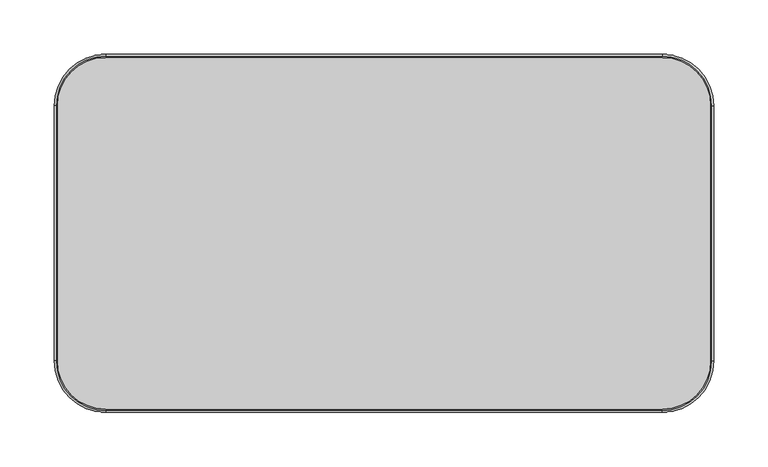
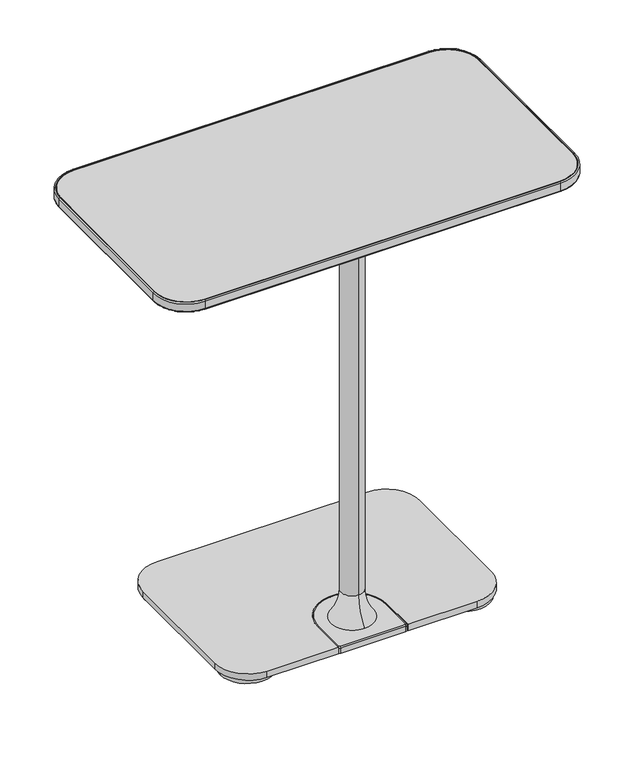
"""IFC4 building model written with IfcOpenShell, lengths in millimetres: furniture geometry, Steelcase Coalesse - Lagunitas - Table - Personal (3) : 13D x 24W."""

from ifc_helpers import new_model, si_unit, point, frame, frame_2d, origin, origin_with_axes, place, context, project, spatial, polyline, circle_curve, ellipse_curve, trimmed, segment, composite_curve, outline, extrude, source, transform, mapped, element, save
from ifc_brep_helpers import plane_surface, cylinder_surface, revolved_surface, advanced_brep


def furniture_b89f0dee(model_context):
    return source(origin(), model_context, "Body", "SolidModel", [
        advanced_brep(
        [(-48.435586, -86.197599, 15.3754683), (-46.9187865, -86.197599, 16.8922679), (50.1397432, -86.197599, 16.8922679), (51.6565428, -86.197599, 15.3754683), (51.6565428, -86.197599, 7.5129953), (-48.435586, -86.197599, 7.5129953), (-48.435586, -135.1065525, 15.3754683), (-46.9187865, -135.1065525, 16.8922679), (-48.435586, -135.1065525, 7.5129953), (-44.9985216, -138.543617, 15.3754683), (48.2194784, -138.543617, 15.3754683), (48.2194784, -137.0268174, 16.8922679), (-44.9985216, -137.0268174, 16.8922679), (-44.9985216, -138.543617, 7.5129953), (48.2194784, -138.543617, 7.5129953), (50.1397432, -135.1065525, 16.8922679), (51.6565428, -135.1065525, 15.3754683), (51.6565428, -135.1065525, 7.5129953)],
        [
            (0, 1, circle_curve(frame((-46.9187865, -86.197599, 15.3754683), z_axis=(0.0, 1.0, 0.0), x_axis=(-1.0, 0.0, 0.0)), 1.5167996)),
            (1, 2, circle_curve(frame((1.6104784, -86.197599, 16.8922679), z_axis=(0.0, 0.0, -1.0), x_axis=(1.0, 0.0, 0.0)), 48.5292649)),
            (2, 3, circle_curve(frame((50.1397432, -86.197599, 15.3754683), z_axis=(0.0, 1.0, 0.0), x_axis=(1.0, 0.0, 0.0)), 1.5167996)),
            (3, 0, circle_curve(frame((1.6104784, -86.197599, 15.3754683), z_axis=(0.0, 0.0, 1.0), x_axis=(1.0, 0.0, 0.0)), 50.0460644)),
            (3, 4),
            (4, 5, circle_curve(frame((1.6104784, -86.197599, 7.5129953), z_axis=(0.0, 0.0, 1.0), x_axis=(1.0, 0.0, 0.0)), 50.0460644)),
            (5, 0),
            (0, 6),
            (6, 7, circle_curve(frame((-46.9187865, -135.1065525, 15.3754683), z_axis=(0.0, 1.0, 0.0), x_axis=(-1.0, 0.0, 0.0)), 1.5167996)),
            (7, 1),
            (5, 8),
            (8, 6),
            (9, 10),
            (10, 11, circle_curve(frame((48.2194784, -137.0268174, 15.3754683), z_axis=(-1.0, 0.0, 0.0), x_axis=(0.0, -1.0, 0.0)), 1.5167996)),
            (11, 12),
            (12, 9, circle_curve(frame((-44.9985216, -137.0268174, 15.3754683), z_axis=(1.0, 0.0, 0.0), x_axis=(0.0, -1.0, 0.0)), 1.5167996)),
            (9, 13),
            (13, 14),
            (14, 10),
            (2, 15),
            (15, 16, circle_curve(frame((50.1397432, -135.1065525, 15.3754683), z_axis=(0.0, 1.0, 0.0), x_axis=(1.0, 0.0, 0.0)), 1.5167996)),
            (16, 3),
            (16, 17),
            (17, 4),
            (6, 9, circle_curve(frame((-44.9985216, -135.1065525, 15.3754683), z_axis=(0.0, 0.0, 1.0), x_axis=(-1.0, 0.0, 0.0)), 3.4370644)),
            (12, 7, circle_curve(frame((-44.9985216, -135.1065525, 16.8922679), z_axis=(0.0, 0.0, -1.0), x_axis=(-1.0, 0.0, 0.0)), 1.9202649)),
            (8, 13, circle_curve(frame((-44.9985216, -135.1065525, 7.5129953), z_axis=(0.0, 0.0, 1.0), x_axis=(-1.0, 0.0, 0.0)), 3.4370644)),
            (11, 15, circle_curve(frame((48.2194784, -135.1065525, 16.8922679), z_axis=(0.0, 0.0, 1.0), x_axis=(0.0, -1.0, 0.0)), 1.9202649)),
            (10, 16, circle_curve(frame((48.2194784, -135.1065525, 15.3754683), z_axis=(0.0, 0.0, 1.0), x_axis=(0.0, -1.0, 0.0)), 3.4370644)),
            (14, 17, circle_curve(frame((48.2194784, -135.1065525, 7.5129953), z_axis=(0.0, 0.0, 1.0), x_axis=(0.0, -1.0, 0.0)), 3.4370644)),
        ],
        [
            revolved_surface(trimmed(ellipse_curve(frame((50.1397432, -86.197599, 15.3754683), z_axis=(0.0, 1.0, 0.0), x_axis=(1.0, 0.0, 0.0)), 1.5167996, 1.5167996), [point((50.1397432, -86.197599, 16.8922679))], [point((51.6565428, -86.197599, 15.3754683))], True, "CARTESIAN"), (1.6104784, -86.197599, 16.8922679), (0.0, 0.0, -1.0)),
            cylinder_surface(frame((1.6104784, -86.197599, 16.8922679), z_axis=(0.0, 0.0, -1.0), x_axis=(1.0, 0.0, 0.0)), 50.0460644),
            cylinder_surface(frame((-46.9187865, -86.197599, 15.3754683), z_axis=(0.0, 1.0, 0.0), x_axis=(-1.0, 0.0, 0.0)), 1.5167996),
            plane_surface(frame((-48.435586, -86.197599, 15.3754683), z_axis=(-1.0, 0.0, 0.0), x_axis=(0.0, -1.0, 0.0))),
            cylinder_surface(frame((-44.9985216, -137.0268174, 15.3754683), z_axis=(-1.0, 0.0, 0.0), x_axis=(0.0, -1.0, 0.0)), 1.5167996),
            plane_surface(frame((-44.9985216, -138.543617, 15.3754683), z_axis=(0.0, -1.0, 0.0), x_axis=(1.0, 0.0, 0.0))),
            cylinder_surface(frame((50.1397432, -135.1065525, 15.3754683), z_axis=(0.0, -1.0, 0.0), x_axis=(1.0, 0.0, 0.0)), 1.5167996),
            plane_surface(frame((51.6565428, -135.1065525, 15.3754683), z_axis=(1.0, 0.0, 0.0), x_axis=(0.0, 1.0, 0.0))),
            revolved_surface(trimmed(ellipse_curve(frame((-46.9187865, -135.1065525, 15.3754683), z_axis=(0.0, -1.0, 0.0), x_axis=(-1.0, 0.0, 0.0)), 1.5167996, 1.5167996), [point((-46.9187865, -135.1065525, 16.8922679))], [point((-48.435586, -135.1065525, 15.3754683))], True, "CARTESIAN"), (-44.9985216, -135.1065525, 16.8922679), (0.0, 0.0, -1.0)),
            cylinder_surface(frame((-44.9985216, -135.1065525, 16.8922679), z_axis=(0.0, 0.0, -1.0), x_axis=(-1.0, 0.0, 0.0)), 3.4370644),
            plane_surface(frame((48.2194784, -135.1065525, 16.8922679), z_axis=(0.0, 0.0, 1.0), x_axis=(0.0, -1.0, 0.0))),
            revolved_surface(trimmed(ellipse_curve(frame((48.2194784, -137.0268174, 15.3754683), z_axis=(1.0, 0.0, 0.0), x_axis=(0.0, -1.0, 0.0)), 1.5167996, 1.5167996), [point((48.2194784, -137.0268174, 16.8922679))], [point((48.2194784, -138.543617, 15.3754683))], True, "CARTESIAN"), (48.2194784, -135.1065525, 16.8922679), (0.0, 0.0, -1.0)),
            cylinder_surface(frame((48.2194784, -135.1065525, 16.8922679), z_axis=(0.0, 0.0, -1.0), x_axis=(0.0, -1.0, 0.0)), 3.4370644),
            plane_surface(frame((48.2194784, -135.1065525, 7.5129953), z_axis=(0.0, 0.0, -1.0), x_axis=(0.0, -1.0, 0.0))),
        ],
        [
            (0, [[1, 2, 3, 4]]),
            (1, [[5, 6, 7, -4]]),
            (2, [[8, 9, 10, -1]]),
            (3, [[11, 12, -8, -7]]),
            (4, [[13, 14, 15, 16]]),
            (5, [[17, 18, 19, -13]]),
            (6, [[20, 21, 22, -3]]),
            (7, [[-22, 23, 24, -5]]),
            (8, [[25, -16, 26, -9]]),
            (9, [[27, -17, -25, -12]]),
            (10, [[-10, -26, -15, 28, -20, -2]]),
            (11, [[29, -21, -28, -14]]),
            (12, [[30, -23, -29, -19]]),
            (13, [[-24, -30, -18, -27, -11, -6]]),
        ],
    ),
        advanced_brep(
        [(0.3050059, -104.0506461, 613.6754053), (0.3050059, -72.1983752, 613.6754053), (0.3050059, -72.1983752, 59.1225811), (0.3050059, -104.0506461, 59.1225811), (0.3050059, -57.1200218, 16.8922679), (0.3050059, -88.1245106, 16.8922679), (0.3050059, -119.1289995, 16.8922679), (130.6684254, -113.5493395, 620.8077946), (140.8284254, -103.3893395, 620.8077946), (140.8284254, 28.6906605, 620.8077946), (130.6684254, 38.8506605, 620.8077946), (-128.4115261, 38.8506605, 620.8077946), (-138.5715261, 28.6906605, 620.8077946), (-138.5715261, -103.3893395, 620.8077946), (-128.4115261, -113.5493395, 620.8077946), (130.6684254, -113.5493395, 613.6754053), (-128.4115261, -113.5493395, 613.6754053), (-138.5715261, -103.3893395, 613.6754053), (-138.5715261, 28.6906605, 613.6754053), (-128.4115261, 38.8506605, 613.6754053), (130.6684254, 38.8506605, 613.6754053), (140.8284254, 28.6906605, 613.6754053), (140.8284254, -103.3893395, 613.6754053)],
        [
            (0, 1, circle_curve(frame((0.3050059, -88.1245106, 613.6754053), z_axis=(0.0, 0.0, -1.0), x_axis=(0.0, -1.0, 0.0)), 15.9261354)),
            (1, 2),
            (2, 3, circle_curve(frame((0.3050059, -88.1245106, 59.1225811), z_axis=(0.0, 0.0, 1.0), x_axis=(0.0, -1.0, 0.0)), 15.9261354)),
            (3, 0),
            (3, 2, circle_curve(frame((0.3050059, -88.1245106, 59.1225811), z_axis=(0.0, 0.0, 1.0), x_axis=(0.0, -1.0, 0.0)), 15.9261354)),
            (1, 0, circle_curve(frame((0.3050059, -88.1245106, 613.6754053), z_axis=(0.0, 0.0, -1.0), x_axis=(0.0, -1.0, 0.0)), 15.9261354)),
            (4, 5),
            (5, 6),
            (6, 4, circle_curve(frame((0.3050059, -88.1245106, 16.8922679), z_axis=(0.0, 0.0, -1.0), x_axis=(0.0, -1.0, 0.0)), 31.0044888)),
            (4, 6, circle_curve(frame((0.3050059, -88.1245106, 16.8922679), z_axis=(0.0, 0.0, -1.0), x_axis=(0.0, -1.0, 0.0)), 31.0044888)),
            (2, 4, circle_curve(frame((0.3050059, -5.5214628, 59.1225811), z_axis=(1.0, 0.0, 0.0), x_axis=(0.0, 1.0, 0.0)), 66.6769124)),
            (6, 3, circle_curve(frame((0.3050059, -170.7275585, 59.1225811), z_axis=(1.0, 0.0, 0.0), x_axis=(0.0, -1.0, 0.0)), 66.6769124)),
            (7, 8, circle_curve(frame((130.6684254, -103.3893395, 620.8077946), z_axis=(0.0, 0.0, 1.0), x_axis=(1.0, 0.0, 0.0)), 10.16)),
            (8, 9),
            (9, 10, circle_curve(frame((130.6684254, 28.6906605, 620.8077946), z_axis=(0.0, 0.0, 1.0), x_axis=(1.0, 0.0, 0.0)), 10.16)),
            (10, 11),
            (11, 12, circle_curve(frame((-128.4115261, 28.6906605, 620.8077946), z_axis=(0.0, 0.0, 1.0), x_axis=(1.0, 0.0, 0.0)), 10.16)),
            (12, 13),
            (13, 14, circle_curve(frame((-128.4115261, -103.3893395, 620.8077946), z_axis=(0.0, 0.0, 1.0), x_axis=(1.0, 0.0, 0.0)), 10.16)),
            (14, 7),
            (15, 16),
            (16, 17, circle_curve(frame((-128.4115261, -103.3893395, 613.6754053), z_axis=(0.0, 0.0, -1.0), x_axis=(1.0, 0.0, 0.0)), 10.16)),
            (17, 18),
            (18, 19, circle_curve(frame((-128.4115261, 28.6906605, 613.6754053), z_axis=(0.0, 0.0, -1.0), x_axis=(1.0, 0.0, 0.0)), 10.16)),
            (19, 20),
            (20, 21, circle_curve(frame((130.6684254, 28.6906605, 613.6754053), z_axis=(0.0, 0.0, -1.0), x_axis=(1.0, 0.0, 0.0)), 10.16)),
            (21, 22),
            (22, 15, circle_curve(frame((130.6684254, -103.3893395, 613.6754053), z_axis=(0.0, 0.0, -1.0), x_axis=(1.0, 0.0, 0.0)), 10.16)),
            (14, 16),
            (15, 7),
            (13, 17),
            (12, 18),
            (11, 19),
            (10, 20),
            (9, 21),
            (8, 22),
        ],
        [
            cylinder_surface(frame((0.3050059, -88.1245106, 738.9341599), z_axis=(0.0, 0.0, 1.0), x_axis=(0.0, -1.0, 0.0)), 15.9261354),
            plane_surface(frame((0.3050059, -88.1245106, 16.8922679), z_axis=(0.0, 0.0, -1.0), x_axis=(0.0, -1.0, 0.0))),
            revolved_surface(trimmed(ellipse_curve(frame((0.3050059, -170.7275585, 59.1225811), z_axis=(1.0, 0.0, 0.0), x_axis=(0.0, -1.0, 0.0)), 66.6769124, 66.6769124), [point((0.3050059, -119.1289995, 16.8922679))], [point((0.3050059, -104.0506461, 59.1225811))], True, "CARTESIAN"), (0.3050059, -88.1245106, 738.9341599), (0.0, 0.0, 1.0)),
            plane_surface(frame((-138.5715261, -113.5493395, 620.8077946), z_axis=(0.0, 0.0, 1.0), x_axis=(-1.0, 0.0, 0.0))),
            plane_surface(frame((-138.5715261, -113.5493395, 613.6754053), z_axis=(0.0, 0.0, -1.0), x_axis=(1.0, 0.0, 0.0))),
            plane_surface(frame((130.6684254, -113.5493395, 620.8077946), z_axis=(0.0, -1.0, 0.0), x_axis=(0.0, 0.0, -1.0))),
            cylinder_surface(frame((-128.4115261, -103.3893395, 613.6754053), z_axis=(0.0, 0.0, 1.0), x_axis=(1.0, 0.0, 0.0)), 10.16),
            plane_surface(frame((-138.5715261, -103.3893395, 620.8077946), z_axis=(-1.0, 0.0, 0.0), x_axis=(0.0, 0.0, -1.0))),
            cylinder_surface(frame((-128.4115261, 28.6906605, 613.6754053), z_axis=(0.0, 0.0, 1.0), x_axis=(1.0, 0.0, 0.0)), 10.16),
            plane_surface(frame((-128.4115261, 38.8506605, 620.8077946), z_axis=(0.0, 1.0, 0.0), x_axis=(0.0, 0.0, -1.0))),
            cylinder_surface(frame((130.6684254, 28.6906605, 613.6754053), z_axis=(0.0, 0.0, 1.0), x_axis=(1.0, 0.0, 0.0)), 10.16),
            plane_surface(frame((140.8284254, 28.6906605, 620.8077946), z_axis=(1.0, 0.0, 0.0), x_axis=(0.0, 0.0, -1.0))),
            cylinder_surface(frame((130.6684254, -103.3893395, 613.6754053), z_axis=(0.0, 0.0, 1.0), x_axis=(1.0, 0.0, 0.0)), 10.16),
        ],
        [
            (0, [[1, 2, 3, 4]]),
            (0, [[5, -2, 6, -4]]),
            (1, [[7, 8, 9]]),
            (1, [[-7, 10, -8]]),
            (2, [[11, -9, 12, -3]]),
            (2, [[-12, -10, -11, -5]]),
            (3, [[13, 14, 15, 16, 17, 18, 19, 20]]),
            (4, [[21, 22, 23, 24, 25, 26, 27, 28], [-6, -1]]),
            (5, [[29, -21, 30, -20]]),
            (6, [[31, -22, -29, -19]]),
            (7, [[32, -23, -31, -18]]),
            (8, [[33, -24, -32, -17]]),
            (9, [[34, -25, -33, -16]]),
            (10, [[35, -26, -34, -15]]),
            (11, [[36, -27, -35, -14]]),
            (12, [[-30, -28, -36, -13]]),
        ],
    ),
        advanced_brep(
        [(-48.435586, -138.1507449, 16.8922679), (-48.435586, -86.197599, 16.8922679), (51.6565428, -86.197599, 16.8922679), (51.6565428, -138.1507449, 16.8922679), (151.8367247, -138.1507449, 16.8922679), (199.4617247, -90.5257449, 16.8922679), (199.4617247, 89.2299982, 16.8922679), (151.8367247, 136.8549982, 16.8922679), (-151.226713, 136.8549982, 16.8922679), (-198.851713, 89.2299982, 16.8922679), (-198.851713, -90.5257449, 16.8922679), (-151.226713, -138.1507449, 16.8922679), (-48.435586, -138.1507449, 7.5129953), (-151.226713, -138.1507449, 7.5129953), (-198.851713, -90.5257449, 7.5129953), (-198.851713, 89.2299982, 7.5129953), (-151.226713, 136.8549982, 7.5129953), (151.8367247, 136.8549982, 7.5129953), (199.4617247, 89.2299982, 7.5129953), (199.4617247, -90.5257449, 7.5129953), (151.8367247, -138.1507449, 7.5129953), (51.6565428, -138.1507449, 7.5129953), (51.6565428, -86.197599, 7.5129953), (-48.435586, -86.197599, 7.5129953)],
        [
            (0, 1),
            (1, 2, circle_curve(frame((1.6104784, -86.197599, 16.8922679), z_axis=(0.0, 0.0, -1.0), x_axis=(1.0, 0.0, 0.0)), 50.0460644)),
            (2, 3),
            (3, 4),
            (4, 5, circle_curve(frame((151.8367247, -90.5257449, 16.8922679), z_axis=(0.0, 0.0, 1.0), x_axis=(1.0, 0.0, 0.0)), 47.625)),
            (5, 6),
            (6, 7, circle_curve(frame((151.8367247, 89.2299982, 16.8922679), z_axis=(0.0, 0.0, 1.0), x_axis=(1.0, 0.0, 0.0)), 47.625)),
            (7, 8),
            (8, 9, circle_curve(frame((-151.226713, 89.2299982, 16.8922679), z_axis=(0.0, 0.0, 1.0), x_axis=(1.0, 0.0, 0.0)), 47.625)),
            (9, 10),
            (10, 11, circle_curve(frame((-151.226713, -90.5257449, 16.8922679), z_axis=(0.0, 0.0, 1.0), x_axis=(1.0, 0.0, 0.0)), 47.625)),
            (11, 0),
            (12, 13),
            (13, 14, circle_curve(frame((-151.226713, -90.5257449, 7.5129953), z_axis=(0.0, 0.0, -1.0), x_axis=(1.0, 0.0, 0.0)), 47.625)),
            (14, 15),
            (15, 16, circle_curve(frame((-151.226713, 89.2299982, 7.5129953), z_axis=(0.0, 0.0, -1.0), x_axis=(1.0, 0.0, 0.0)), 47.625)),
            (16, 17),
            (17, 18, circle_curve(frame((151.8367247, 89.2299982, 7.5129953), z_axis=(0.0, 0.0, -1.0), x_axis=(1.0, 0.0, 0.0)), 47.625)),
            (18, 19),
            (19, 20, circle_curve(frame((151.8367247, -90.5257449, 7.5129953), z_axis=(0.0, 0.0, -1.0), x_axis=(1.0, 0.0, 0.0)), 47.625)),
            (20, 21),
            (21, 22),
            (22, 23, circle_curve(frame((1.6104784, -86.197599, 7.5129953), z_axis=(0.0, 0.0, 1.0), x_axis=(1.0, 0.0, 0.0)), 50.0460644)),
            (23, 12),
            (11, 13),
            (12, 0),
            (10, 14),
            (9, 15),
            (8, 16),
            (7, 17),
            (6, 18),
            (5, 19),
            (4, 20),
            (3, 21),
            (2, 22),
            (1, 23),
        ],
        [
            plane_surface(frame((-151.226713, -138.1507449, 16.8922679), z_axis=(0.0, 0.0, 1.0), x_axis=(-1.0, 0.0, 0.0))),
            plane_surface(frame((-151.226713, -138.1507449, 7.5129953), z_axis=(0.0, 0.0, -1.0), x_axis=(1.0, 0.0, 0.0))),
            plane_surface(frame((-48.435586, -138.1507449, 16.8922679), z_axis=(0.0, -1.0, 0.0), x_axis=(0.0, 0.0, -1.0))),
            cylinder_surface(frame((-151.226713, -90.5257449, 7.5129953), z_axis=(0.0, 0.0, 1.0), x_axis=(1.0, 0.0, 0.0)), 47.625),
            plane_surface(frame((-198.851713, -90.5257449, 16.8922679), z_axis=(-1.0, 0.0, 0.0), x_axis=(0.0, 0.0, -1.0))),
            cylinder_surface(frame((-151.226713, 89.2299982, 7.5129953), z_axis=(0.0, 0.0, 1.0), x_axis=(1.0, 0.0, 0.0)), 47.625),
            plane_surface(frame((-151.226713, 136.8549982, 16.8922679), z_axis=(0.0, 1.0, 0.0), x_axis=(0.0, 0.0, -1.0))),
            cylinder_surface(frame((151.8367247, 89.2299982, 7.5129953), z_axis=(0.0, 0.0, 1.0), x_axis=(1.0, 0.0, 0.0)), 47.625),
            plane_surface(frame((199.4617247, 89.2299982, 16.8922679), z_axis=(1.0, 0.0, 0.0), x_axis=(0.0, 0.0, -1.0))),
            cylinder_surface(frame((151.8367247, -90.5257449, 7.5129953), z_axis=(0.0, 0.0, 1.0), x_axis=(1.0, 0.0, 0.0)), 47.625),
            plane_surface(frame((151.8367247, -138.1507449, 16.8922679), z_axis=(0.0, -1.0, 0.0), x_axis=(0.0, 0.0, -1.0))),
            plane_surface(frame((51.6565428, -138.1507449, 16.8922679), z_axis=(-1.0, 0.0, 0.0), x_axis=(0.0, 0.0, -1.0))),
            revolved_surface(polyline([(51.6565428, -86.197599, 7.5129953), (51.6565428, -86.197599, 16.8922679)]), (1.6104784, -86.197599, 7.5129953), (0.0, 0.0, -1.0)),
            plane_surface(frame((-48.435586, -86.197599, 16.8922679), z_axis=(1.0, 0.0, 0.0), x_axis=(0.0, 0.0, -1.0))),
        ],
        [
            (0, [[1, 2, 3, 4, 5, 6, 7, 8, 9, 10, 11, 12]]),
            (1, [[13, 14, 15, 16, 17, 18, 19, 20, 21, 22, 23, 24]]),
            (2, [[25, -13, 26, -12]]),
            (3, [[27, -14, -25, -11]]),
            (4, [[28, -15, -27, -10]]),
            (5, [[29, -16, -28, -9]]),
            (6, [[30, -17, -29, -8]]),
            (7, [[31, -18, -30, -7]]),
            (8, [[32, -19, -31, -6]]),
            (9, [[33, -20, -32, -5]]),
            (10, [[34, -21, -33, -4]]),
            (11, [[35, -22, -34, -3]]),
            (12, [[36, -23, -35, -2]]),
            (13, [[-26, -24, -36, -1]]),
        ],
    ),
        advanced_brep(
        [(-303.6671081, -117.6038988, 633.3581839), (-303.6671081, -117.6038988, 622.5894697), (-256.1710069, -165.1, 622.5894697), (-256.1710069, -165.1, 633.3581839), (-300.6210069, -117.6038988, 620.8077946), (-300.6210069, -117.6038988, 635.031781), (-256.1710069, -162.0538988, 635.031781), (-256.1710069, -162.0538988, 620.8077946), (-303.6671081, 117.6038988, 633.3581839), (-303.6671081, 117.6038988, 622.5894697), (-300.6210069, 117.6038988, 620.8077946), (-300.6210069, 117.6038988, 635.031781), (-256.1710069, 165.1, 633.3581839), (-256.1710069, 165.1, 622.5894697), (-256.1710069, 162.0538988, 620.8077946), (-256.1710069, 162.0538988, 635.031781), (256.7810186, 165.1, 633.3581839), (256.7810186, 165.1, 622.5894697), (256.7810186, 162.0538988, 620.8077946), (256.7810186, 162.0538988, 635.031781), (304.2771199, 117.6038988, 633.3581839), (304.2771199, 117.6038988, 622.5894697), (301.2310186, 117.6038988, 620.8077946), (301.2310186, 117.6038988, 635.031781), (304.2771199, -117.6038988, 633.3581839), (304.2771199, -117.6038988, 622.5894697), (301.2310186, -117.6038988, 620.8077946), (301.2310186, -117.6038988, 635.031781), (256.7810186, -165.1, 633.3581839), (256.7810186, -165.1, 622.5894697), (256.7810186, -162.0538988, 620.8077946), (256.7810186, -162.0538988, 635.031781), (-301.885433, -117.6038988, 620.8077946), (-256.1710069, -163.3183249, 620.8077946), (-301.9935111, -117.6038988, 635.031781), (-256.1710069, -163.4264029, 635.031781), (-301.885433, 117.6038988, 620.8077946), (-301.9935111, 117.6038988, 635.031781), (-256.1710069, 163.3183249, 620.8077946), (-256.1710069, 163.4264029, 635.031781), (256.7810186, 163.3183249, 620.8077946), (256.7810186, 163.4264029, 635.031781), (302.4954448, 117.6038988, 620.8077946), (302.6035228, 117.6038988, 635.031781), (302.4954448, -117.6038988, 620.8077946), (302.6035228, -117.6038988, 635.031781), (256.7810186, -163.3183249, 620.8077946), (256.7810186, -163.4264029, 635.031781)],
        [
            (0, 1),
            (1, 2, circle_curve(frame((-256.1710069, -117.6038988, 622.5894697), z_axis=(0.0, 0.0, 1.0), x_axis=(0.0, -1.0, 0.0)), 47.4961012)),
            (2, 3),
            (3, 0, circle_curve(frame((-256.1710069, -117.6038988, 633.3581839), z_axis=(0.0, 0.0, -1.0), x_axis=(0.0, -1.0, 0.0)), 47.4961012)),
            (4, 5),
            (5, 6, circle_curve(frame((-256.1710069, -117.6038988, 635.031781), z_axis=(0.0, 0.0, 1.0), x_axis=(0.0, -1.0, 0.0)), 44.45)),
            (6, 7),
            (7, 4, circle_curve(frame((-256.1710069, -117.6038988, 620.8077946), z_axis=(0.0, 0.0, -1.0), x_axis=(0.0, -1.0, 0.0)), 44.45)),
            (0, 8),
            (8, 9),
            (9, 1),
            (4, 10),
            (10, 11),
            (11, 5),
            (12, 13),
            (13, 9, circle_curve(frame((-256.1710069, 117.6038988, 622.5894697), z_axis=(0.0, 0.0, 1.0), x_axis=(-1.0, 0.0, 0.0)), 47.4961012)),
            (8, 12, circle_curve(frame((-256.1710069, 117.6038988, 633.3581839), z_axis=(0.0, 0.0, -1.0), x_axis=(-1.0, 0.0, 0.0)), 47.4961012)),
            (14, 15),
            (15, 11, circle_curve(frame((-256.1710069, 117.6038988, 635.031781), z_axis=(0.0, 0.0, 1.0), x_axis=(-1.0, 0.0, 0.0)), 44.45)),
            (10, 14, circle_curve(frame((-256.1710069, 117.6038988, 620.8077946), z_axis=(0.0, 0.0, -1.0), x_axis=(-1.0, 0.0, 0.0)), 44.45)),
            (12, 16),
            (16, 17),
            (17, 13),
            (14, 18),
            (18, 19),
            (19, 15),
            (20, 21),
            (21, 17, circle_curve(frame((256.7810186, 117.6038988, 622.5894697), z_axis=(0.0, 0.0, 1.0), x_axis=(0.0, 1.0, 0.0)), 47.4961012)),
            (16, 20, circle_curve(frame((256.7810186, 117.6038988, 633.3581839), z_axis=(0.0, 0.0, -1.0), x_axis=(0.0, 1.0, 0.0)), 47.4961012)),
            (22, 23),
            (23, 19, circle_curve(frame((256.7810186, 117.6038988, 635.031781), z_axis=(0.0, 0.0, 1.0), x_axis=(0.0, 1.0, 0.0)), 44.45)),
            (18, 22, circle_curve(frame((256.7810186, 117.6038988, 620.8077946), z_axis=(0.0, 0.0, -1.0), x_axis=(0.0, 1.0, 0.0)), 44.45)),
            (20, 24),
            (24, 25),
            (25, 21),
            (22, 26),
            (26, 27),
            (27, 23),
            (28, 29),
            (29, 25, circle_curve(frame((256.7810186, -117.6038988, 622.5894697), z_axis=(0.0, 0.0, 1.0), x_axis=(1.0, 0.0, 0.0)), 47.4961012)),
            (24, 28, circle_curve(frame((256.7810186, -117.6038988, 633.3581839), z_axis=(0.0, 0.0, -1.0), x_axis=(1.0, 0.0, 0.0)), 47.4961012)),
            (30, 31),
            (31, 27, circle_curve(frame((256.7810186, -117.6038988, 635.031781), z_axis=(0.0, 0.0, 1.0), x_axis=(1.0, 0.0, 0.0)), 44.45)),
            (26, 30, circle_curve(frame((256.7810186, -117.6038988, 620.8077946), z_axis=(0.0, 0.0, -1.0), x_axis=(1.0, 0.0, 0.0)), 44.45)),
            (28, 3),
            (2, 29),
            (30, 7),
            (6, 31),
            (1, 32, circle_curve(frame((-301.885433, -117.6038988, 622.5894697), z_axis=(0.0, -1.0, 0.0), x_axis=(1.0, 0.0, 0.0)), 1.7816751)),
            (32, 33, circle_curve(frame((-256.1710069, -117.6038988, 620.8077946), z_axis=(0.0, 0.0, 1.0), x_axis=(0.0, -1.0, 0.0)), 45.7144261)),
            (33, 2, circle_curve(frame((-256.1710069, -163.3183249, 622.5894697), z_axis=(-1.0, 0.0, 0.0), x_axis=(0.0, 1.0, 0.0)), 1.7816751)),
            (34, 0, circle_curve(frame((-301.9935111, -117.6038988, 633.3581839), z_axis=(0.0, -1.0, 0.0), x_axis=(1.0, 0.0, 0.0)), 1.6735971)),
            (3, 35, circle_curve(frame((-256.1710069, -163.4264029, 633.3581839), z_axis=(-1.0, 0.0, 0.0), x_axis=(0.0, 1.0, 0.0)), 1.6735971)),
            (35, 34, circle_curve(frame((-256.1710069, -117.6038988, 635.031781), z_axis=(0.0, 0.0, -1.0), x_axis=(0.0, -1.0, 0.0)), 45.8225042)),
            (9, 36, circle_curve(frame((-301.885433, 117.6038988, 622.5894697), z_axis=(0.0, -1.0, 0.0), x_axis=(1.0, 0.0, 0.0)), 1.7816751)),
            (36, 32),
            (34, 37),
            (37, 8, circle_curve(frame((-301.9935111, 117.6038988, 633.3581839), z_axis=(0.0, -1.0, 0.0), x_axis=(1.0, 0.0, 0.0)), 1.6735971)),
            (13, 38, circle_curve(frame((-256.1710069, 163.3183249, 622.5894697), z_axis=(-1.0, 0.0, 0.0), x_axis=(0.0, -1.0, 0.0)), 1.7816751)),
            (38, 36, circle_curve(frame((-256.1710069, 117.6038988, 620.8077946), z_axis=(0.0, 0.0, 1.0), x_axis=(-1.0, 0.0, 0.0)), 45.7144261)),
            (39, 12, circle_curve(frame((-256.1710069, 163.4264029, 633.3581839), z_axis=(-1.0, 0.0, 0.0), x_axis=(0.0, -1.0, 0.0)), 1.6735971)),
            (37, 39, circle_curve(frame((-256.1710069, 117.6038988, 635.031781), z_axis=(0.0, 0.0, -1.0), x_axis=(-1.0, 0.0, 0.0)), 45.8225042)),
            (17, 40, circle_curve(frame((256.7810186, 163.3183249, 622.5894697), z_axis=(-1.0, 0.0, 0.0), x_axis=(0.0, -1.0, 0.0)), 1.7816751)),
            (40, 38),
            (39, 41),
            (41, 16, circle_curve(frame((256.7810186, 163.4264029, 633.3581839), z_axis=(-1.0, 0.0, 0.0), x_axis=(0.0, -1.0, 0.0)), 1.6735971)),
            (21, 42, circle_curve(frame((302.4954448, 117.6038988, 622.5894697), z_axis=(0.0, 1.0, 0.0), x_axis=(-1.0, 0.0, 0.0)), 1.7816751)),
            (42, 40, circle_curve(frame((256.7810186, 117.6038988, 620.8077946), z_axis=(0.0, 0.0, 1.0), x_axis=(0.0, 1.0, 0.0)), 45.7144261)),
            (43, 20, circle_curve(frame((302.6035228, 117.6038988, 633.3581839), z_axis=(0.0, 1.0, 0.0), x_axis=(-1.0, 0.0, 0.0)), 1.6735971)),
            (41, 43, circle_curve(frame((256.7810186, 117.6038988, 635.031781), z_axis=(0.0, 0.0, -1.0), x_axis=(0.0, 1.0, 0.0)), 45.8225042)),
            (25, 44, circle_curve(frame((302.4954448, -117.6038988, 622.5894697), z_axis=(0.0, 1.0, 0.0), x_axis=(-1.0, 0.0, 0.0)), 1.7816751)),
            (44, 42),
            (43, 45),
            (45, 24, circle_curve(frame((302.6035228, -117.6038988, 633.3581839), z_axis=(0.0, 1.0, 0.0), x_axis=(-1.0, 0.0, 0.0)), 1.6735971)),
            (29, 46, circle_curve(frame((256.7810186, -163.3183249, 622.5894697), z_axis=(1.0, 0.0, 0.0), x_axis=(0.0, 1.0, 0.0)), 1.7816751)),
            (46, 44, circle_curve(frame((256.7810186, -117.6038988, 620.8077946), z_axis=(0.0, 0.0, 1.0), x_axis=(1.0, 0.0, 0.0)), 45.7144261)),
            (47, 28, circle_curve(frame((256.7810186, -163.4264029, 633.3581839), z_axis=(1.0, 0.0, 0.0), x_axis=(0.0, 1.0, 0.0)), 1.6735971)),
            (45, 47, circle_curve(frame((256.7810186, -117.6038988, 635.031781), z_axis=(0.0, 0.0, -1.0), x_axis=(1.0, 0.0, 0.0)), 45.8225042)),
            (46, 33),
            (47, 35),
        ],
        [
            cylinder_surface(frame((-256.1710069, -117.6038988, 0.0), z_axis=(0.0, 0.0, 1.0), x_axis=(0.0, -1.0, 0.0)), 47.4961012),
            revolved_surface(polyline([(-256.1710069, -162.0538988, 635.031781), (-256.1710069, -162.0538988, 620.8077946)]), (-256.1710069, -117.6038988, 0.0), (0.0, 0.0, 1.0)),
            plane_surface(frame((-303.6671081, -117.6038988, 622.5894697), z_axis=(-1.0, 0.0, 0.0), x_axis=(0.0, 1.0, 0.0))),
            plane_surface(frame((-300.6210069, -117.6038988, 635.031781), z_axis=(1.0, 0.0, 0.0), x_axis=(0.0, 1.0, 0.0))),
            cylinder_surface(frame((-256.1710069, 117.6038988, 0.0), z_axis=(0.0, 0.0, 1.0), x_axis=(-1.0, 0.0, 0.0)), 47.4961012),
            revolved_surface(polyline([(-300.6210069, 117.6038988, 635.031781), (-300.6210069, 117.6038988, 620.8077946)]), (-256.1710069, 117.6038988, 0.0), (0.0, 0.0, 1.0)),
            plane_surface(frame((-256.1710069, 165.1, 622.5894697), z_axis=(0.0, 1.0, 0.0), x_axis=(1.0, 0.0, 0.0))),
            plane_surface(frame((-256.1710069, 162.0538988, 635.031781), z_axis=(0.0, -1.0, 0.0), x_axis=(1.0, 0.0, 0.0))),
            cylinder_surface(frame((256.7810186, 117.6038988, 0.0), z_axis=(0.0, 0.0, 1.0), x_axis=(0.0, 1.0, 0.0)), 47.4961012),
            revolved_surface(polyline([(256.7810186, 162.0538988, 635.031781), (256.7810186, 162.0538988, 620.8077946)]), (256.7810186, 117.6038988, 0.0), (0.0, 0.0, 1.0)),
            plane_surface(frame((304.2771199, 117.6038988, 622.5894697), z_axis=(1.0, 0.0, 0.0), x_axis=(0.0, -1.0, 0.0))),
            plane_surface(frame((301.2310186, 117.6038988, 635.031781), z_axis=(-1.0, 0.0, 0.0), x_axis=(0.0, -1.0, 0.0))),
            cylinder_surface(frame((256.7810186, -117.6038988, 0.0), z_axis=(0.0, 0.0, 1.0), x_axis=(1.0, 0.0, 0.0)), 47.4961012),
            revolved_surface(polyline([(301.23101859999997, -117.6038988, 635.031781), (301.23101859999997, -117.6038988, 620.8077946)]), (256.7810186, -117.6038988, 0.0), (0.0, 0.0, 1.0)),
            plane_surface(frame((256.7810186, -165.1, 622.5894697), z_axis=(0.0, -1.0, 0.0), x_axis=(-1.0, 0.0, 0.0))),
            plane_surface(frame((256.7810186, -162.0538988, 635.031781), z_axis=(0.0, 1.0, 0.0), x_axis=(-1.0, 0.0, 0.0))),
            revolved_surface(trimmed(ellipse_curve(frame((-256.1710069, -163.3183249, 622.5894697), z_axis=(-1.0, 0.0, 0.0), x_axis=(0.0, 1.0, 0.0)), 1.7816751, 1.7816751), [point((-256.1710069, -163.3183249, 620.8077946))], [point((-256.1710069, -165.1, 622.5894697))], True, "CARTESIAN"), (-256.1710069, -117.6038988, 0.0), (0.0, 0.0, 1.0)),
            revolved_surface(trimmed(ellipse_curve(frame((-256.1710069, -163.4264029, 633.3581839), z_axis=(-1.0, 0.0, 0.0), x_axis=(0.0, 1.0, 0.0)), 1.6735971, 1.6735971), [point((-256.1710069, -165.1, 633.3581839))], [point((-256.1710069, -163.4264029, 635.031781))], True, "CARTESIAN"), (-256.1710069, -117.6038988, 0.0), (0.0, 0.0, 1.0)),
            cylinder_surface(frame((-301.885433, -117.6038988, 622.5894697), z_axis=(0.0, -1.0, 0.0), x_axis=(1.0, 0.0, 0.0)), 1.7816751),
            cylinder_surface(frame((-301.9935111, -117.6038988, 633.3581839), z_axis=(0.0, -1.0, 0.0), x_axis=(1.0, 0.0, 0.0)), 1.6735971),
            revolved_surface(trimmed(ellipse_curve(frame((-301.885433, 117.6038988, 622.5894697), z_axis=(0.0, 1.0, 0.0), x_axis=(1.0, 0.0, 0.0)), 1.7816751, 1.7816751), [point((-301.885433, 117.6038988, 620.8077946))], [point((-303.6671081, 117.6038988, 622.5894697))], True, "CARTESIAN"), (-256.1710069, 117.6038988, 0.0), (0.0, 0.0, 1.0)),
            revolved_surface(trimmed(ellipse_curve(frame((-301.9935111, 117.6038988, 633.3581839), z_axis=(0.0, 1.0, 0.0), x_axis=(1.0, 0.0, 0.0)), 1.6735971, 1.6735971), [point((-303.6671081, 117.6038988, 633.3581839))], [point((-301.9935111, 117.6038988, 635.031781))], True, "CARTESIAN"), (-256.1710069, 117.6038988, 0.0), (0.0, 0.0, 1.0)),
            cylinder_surface(frame((-256.1710069, 163.3183249, 622.5894697), z_axis=(-1.0, 0.0, 0.0), x_axis=(0.0, -1.0, 0.0)), 1.7816751),
            cylinder_surface(frame((-256.1710069, 163.4264029, 633.3581839), z_axis=(-1.0, 0.0, 0.0), x_axis=(0.0, -1.0, 0.0)), 1.6735971),
            revolved_surface(trimmed(ellipse_curve(frame((256.7810186, 163.3183249, 622.5894697), z_axis=(1.0, 0.0, 0.0), x_axis=(0.0, -1.0, 0.0)), 1.7816751, 1.7816751), [point((256.7810186, 163.3183249, 620.8077946))], [point((256.7810186, 165.1, 622.5894697))], True, "CARTESIAN"), (256.7810186, 117.6038988, 0.0), (0.0, 0.0, 1.0)),
            revolved_surface(trimmed(ellipse_curve(frame((256.7810186, 163.4264029, 633.3581839), z_axis=(1.0, 0.0, 0.0), x_axis=(0.0, -1.0, 0.0)), 1.6735971, 1.6735971), [point((256.7810186, 165.1, 633.3581839))], [point((256.7810186, 163.4264029, 635.031781))], True, "CARTESIAN"), (256.7810186, 117.6038988, 0.0), (0.0, 0.0, 1.0)),
            cylinder_surface(frame((302.4954448, 117.6038988, 622.5894697), z_axis=(0.0, 1.0, 0.0), x_axis=(-1.0, 0.0, 0.0)), 1.7816751),
            cylinder_surface(frame((302.6035228, 117.6038988, 633.3581839), z_axis=(0.0, 1.0, 0.0), x_axis=(-1.0, 0.0, 0.0)), 1.6735971),
            revolved_surface(trimmed(ellipse_curve(frame((302.4954448, -117.6038988, 622.5894697), z_axis=(0.0, -1.0, 0.0), x_axis=(-1.0, 0.0, 0.0)), 1.7816751, 1.7816751), [point((302.4954448, -117.6038988, 620.8077946))], [point((304.2771199, -117.6038988, 622.5894697))], True, "CARTESIAN"), (256.7810186, -117.6038988, 0.0), (0.0, 0.0, 1.0)),
            revolved_surface(trimmed(ellipse_curve(frame((302.6035228, -117.6038988, 633.3581839), z_axis=(0.0, -1.0, 0.0), x_axis=(-1.0, 0.0, 0.0)), 1.6735971, 1.6735971), [point((304.2771199, -117.6038988, 633.3581839))], [point((302.6035228, -117.6038988, 635.031781))], True, "CARTESIAN"), (256.7810186, -117.6038988, 0.0), (0.0, 0.0, 1.0)),
            plane_surface(frame((256.7810186, -162.0538988, 620.8077946), z_axis=(0.0, 0.0, -1.0), x_axis=(-1.0, 0.0, 0.0))),
            cylinder_surface(frame((256.7810186, -163.3183249, 622.5894697), z_axis=(1.0, 0.0, 0.0), x_axis=(0.0, 1.0, 0.0)), 1.7816751),
            cylinder_surface(frame((256.7810186, -163.4264029, 633.3581839), z_axis=(1.0, 0.0, 0.0), x_axis=(0.0, 1.0, 0.0)), 1.6735971),
            plane_surface(frame((256.7810186, -163.4264029, 635.031781), z_axis=(0.0, 0.0, 1.0), x_axis=(-1.0, 0.0, 0.0))),
        ],
        [
            (0, [[1, 2, 3, 4]]),
            (1, [[5, 6, 7, 8]]),
            (2, [[9, 10, 11, -1]]),
            (3, [[12, 13, 14, -5]]),
            (4, [[15, 16, -10, 17]]),
            (5, [[18, 19, -13, 20]]),
            (6, [[21, 22, 23, -15]]),
            (7, [[24, 25, 26, -18]]),
            (8, [[27, 28, -22, 29]]),
            (9, [[30, 31, -25, 32]]),
            (10, [[33, 34, 35, -27]]),
            (11, [[36, 37, 38, -30]]),
            (12, [[39, 40, -34, 41]]),
            (13, [[42, 43, -37, 44]]),
            (14, [[45, -3, 46, -39]]),
            (15, [[47, -7, 48, -42]]),
            (16, [[49, 50, 51, -2]]),
            (17, [[52, -4, 53, 54]]),
            (18, [[-11, 55, 56, -49]]),
            (19, [[57, 58, -9, -52]]),
            (20, [[59, 60, -55, -16]]),
            (21, [[61, -17, -58, 62]]),
            (22, [[-23, 63, 64, -59]]),
            (23, [[65, 66, -21, -61]]),
            (24, [[67, 68, -63, -28]]),
            (25, [[69, -29, -66, 70]]),
            (26, [[-35, 71, 72, -67]]),
            (27, [[73, 74, -33, -69]]),
            (28, [[75, 76, -71, -40]]),
            (29, [[77, -41, -74, 78]]),
            (30, [[-50, -56, -60, -64, -68, -72, -76, 79], [-32, -24, -20, -12, -8, -47, -44, -36]]),
            (31, [[-46, -51, -79, -75]]),
            (32, [[80, -53, -45, -77]]),
            (33, [[-70, -65, -62, -57, -54, -80, -78, -73], [-6, -14, -19, -26, -31, -38, -43, -48]]),
        ],
    ),
        extrude(outline(composite_curve([segment(polyline([(256.7810186, -162.0538988), (-256.1710069, -162.0538988)]), True, "CONTINUOUS"), segment(trimmed(circle_curve(frame_2d((-256.1710069, -117.6038988)), 44.45), [point((-256.1710069, -162.0538988))], [point((-300.6210069, -117.6038988))], False, "CARTESIAN"), True, "CONTINUOUS"), segment(polyline([(-300.6210069, -117.6038988), (-300.6210069, 117.6038988)]), True, "CONTINUOUS"), segment(trimmed(circle_curve(frame_2d((-256.1710069, 117.6038988)), 44.45), [point((-300.6210069, 117.6038988))], [point((-256.1710069, 162.0538988))], False, "CARTESIAN"), True, "CONTINUOUS"), segment(polyline([(-256.1710069, 162.0538988), (256.7810186, 162.0538988)]), True, "CONTINUOUS"), segment(trimmed(circle_curve(frame_2d((256.7810186, 117.6038988)), 44.45), [point((256.7810186, 162.0538988))], [point((301.2310186, 117.6038988))], False, "CARTESIAN"), True, "CONTINUOUS"), segment(polyline([(301.2310186, 117.6038988), (301.2310186, -117.6038988)]), True, "CONTINUOUS"), segment(trimmed(circle_curve(frame_2d((256.7810186, -117.6038988)), 44.45), [point((301.2310186, -117.6038988))], [point((256.7810186, -162.0538988))], False, "CARTESIAN"), True, "CONTINUOUS")], self_intersect=False)), frame((0.0, 0.0, 620.8077946), z_axis=(0.0, 0.0, 1.0), x_axis=(1.0, 0.0, 0.0)), (0.0, 0.0, 1.0), 14.2239864),
        extrude(outline(composite_curve([segment(trimmed(circle_curve(frame_2d((-155.7760334, -95.0805112)), 38.1), [point((-193.8760334, -95.0805112))], [point((-117.6760334, -95.0805112))], False, "CARTESIAN"), True, "CONTINUOUS"), segment(trimmed(circle_curve(frame_2d((-155.7760334, -95.0805112)), 38.1), [point((-117.6760334, -95.0805112))], [point((-193.8760334, -95.0805112))], False, "CARTESIAN"), True, "CONTINUOUS")], self_intersect=False)), origin_with_axes(), (0.0, 0.0, 1.0), 7.5129953),
        extrude(outline(composite_curve([segment(trimmed(circle_curve(frame_2d((156.3860451, -95.0805112)), 38.1), [point((118.2860451, -95.0805112))], [point((194.4860451, -95.0805112))], False, "CARTESIAN"), True, "CONTINUOUS"), segment(trimmed(circle_curve(frame_2d((156.3860451, -95.0805112)), 38.1), [point((194.4860451, -95.0805112))], [point((118.2860451, -95.0805112))], False, "CARTESIAN"), True, "CONTINUOUS")], self_intersect=False)), origin_with_axes(), (0.0, 0.0, 1.0), 7.5129953),
        extrude(outline(composite_curve([segment(trimmed(circle_curve(frame_2d((156.3860451, 93.7847644)), 38.1), [point((118.2860451, 93.7847644))], [point((194.4860451, 93.7847644))], False, "CARTESIAN"), True, "CONTINUOUS"), segment(trimmed(circle_curve(frame_2d((156.3860451, 93.7847644)), 38.1), [point((194.4860451, 93.7847644))], [point((118.2860451, 93.7847644))], False, "CARTESIAN"), True, "CONTINUOUS")], self_intersect=False)), origin_with_axes(), (0.0, 0.0, 1.0), 7.5129953),
        extrude(outline(composite_curve([segment(trimmed(circle_curve(frame_2d((-155.7760334, 93.7847644)), 38.1), [point((-193.8760334, 93.7847644))], [point((-117.6760334, 93.7847644))], False, "CARTESIAN"), True, "CONTINUOUS"), segment(trimmed(circle_curve(frame_2d((-155.7760334, 93.7847644)), 38.1), [point((-117.6760334, 93.7847644))], [point((-193.8760334, 93.7847644))], False, "CARTESIAN"), True, "CONTINUOUS")], self_intersect=False)), origin_with_axes(), (0.0, 0.0, 1.0), 7.5129953),
    ])


if __name__ == "__main__":
    model = new_model("IFC4")
    model_context = context("Model", 3, world=origin())
    ifc_project = project(units=[si_unit("LENGTHUNIT", "METRE", prefix="MILLI")], contexts=[model_context])
    site = spatial("IfcSite", under=ifc_project)
    building = spatial("IfcBuilding", under=site)
    placement = place(None, origin())
    furniture_shape = furniture_b89f0dee(model_context)
    element("IfcFurniture", 1, ObjectType="Steelcase Coalesse - Lagunitas - Table - Personal (3) : 13D x 24W", at=placement, inside=building, context=model_context, shape_type="MappedRepresentation", body=[
        mapped(furniture_shape, transform((0.0, 0.0, 0.0), x_axis=(1.0, 0.0, 0.0), y_axis=(0.0, 1.0, 0.0), z_axis=(0.0, 0.0, 1.0))),
    ])
    save(model, "model.ifc")
